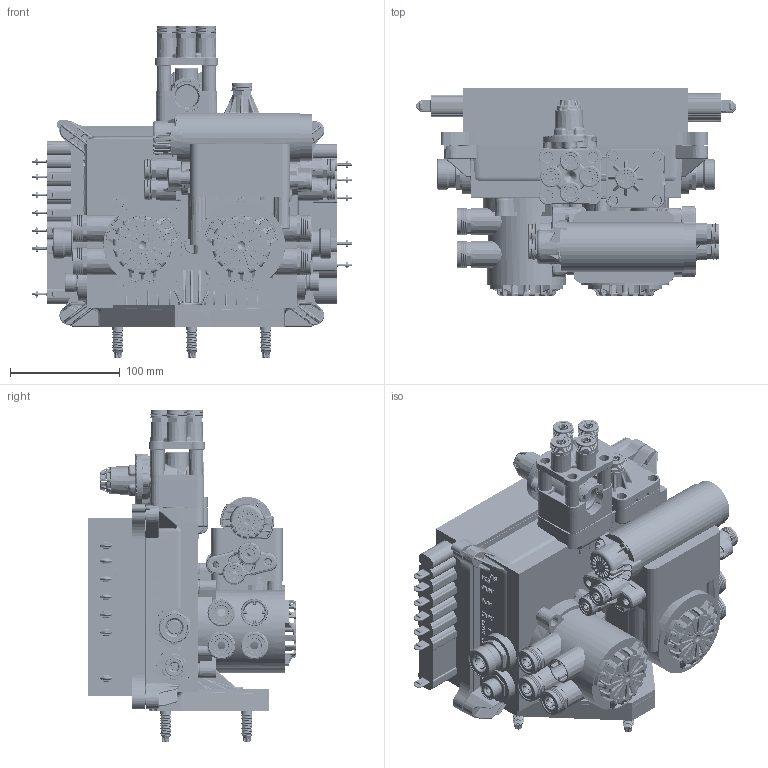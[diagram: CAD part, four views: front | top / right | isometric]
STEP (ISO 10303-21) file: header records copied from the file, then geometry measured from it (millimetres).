
FILE_DESCRIPTION((''),'2;1');
FILE_NAME('842_001_121_ASM','2022-05-23T11:33:28',('sripaskaraa'),('Haldex Brake Products'),'CREO PARAMETRIC BY PTC INC, 2018500','CREO PARAMETRIC BY PTC INC, 2018500','');
FILE_SCHEMA(('AUTOMOTIVE_DESIGN { 1 0 10303 214 1 1 1 1 }'));
Products named in the file (54): 027_5561_09_SIMP_1_1; 003_9858_09_SIMP_ASM_1_ASM_1_ASM; 051_5150_09_1_1; 032_5119_09_1_1; 032_5113_09_1_1; 003_9960_09_SIMP_2_1; 003_9960_09_SIMP_ASM_2_ASM_1_ASM; 004_0012_09_SIMP_ASM_1_ASM_1_ASM; 027_5537_09_SIMP_AF7_1_1; 003_9864_09_SIMP_AF7_ASM_1_ASM__ASM; 032_5151_09_1_1; 003_9980_09_SIMP_AF6_ASM_1_ASM__ASM; 027_5556_09_AF17_1_1; 003_9836_09_AF18_ASM_1_ASM_1_ASM; 003_9861_09_SIMP_AF5_ASM_1_ASM__ASM; 027_5560_09_SIMP_1_1; 003_9841_09_SIMP_ASM_1_ASM_1_ASM; 032_5150_09_1_1_1; 032_5150_09_1_2_1; 032_5150_09_1_ASM_1_ASM; 003_9983_09_SIMP_ASM_1_ASM_1_ASM; 027_5556_09_1_1; 003_9836_09_ASM_1_ASM_1_ASM; 003_9863_09_SIMP_ASM_1_ASM_1_ASM; 027_5545_19_SIMP_1_1; 058_5007_09_AF8_1_1; 058_5007_09_AF9_1_1; 058_5007_09_AF10_1_1; 058_5007_09_AF11_1_1; 003_9853_19_SIMP_ASM_1_ASM_1_ASM; 027_5551_19_1_1; 029_5015_09_ASM_1_1; 003_9913_19_SIMP_ASM_1_ASM_1_ASM; 027_5552_19_1_1; 003_9855_19_ASM_1_ASM_1_ASM; 027_5555_09_1_1; 003_9912_09_ASM_1_ASM_1_ASM; 003_9851_09_SIMP_ASM_1_ASM_1_ASM; 027_5610_09_1_1; 003_9989_09_ASM_1_ASM_1_ASM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
Assembly tree (79 placements, depth 7):
  842_001_121_ASM
    842_001_121_SIMP_ASM_ASM_1_ASM
      842_001_121_SIMP_ASM_1_ASM_1_ASM
        004_0012_09_SIMP_ASM_1_ASM_1_ASM
          003_9858_09_SIMP_ASM_1_ASM_1_ASM
            027_5561_09_SIMP_1_1
          051_5150_09_1_1  x3
          032_5119_09_1_1  x2
          032_5113_09_1_1  x2
          003_9960_09_SIMP_ASM_2_ASM_1_ASM
            003_9960_09_SIMP_2_1
        003_9861_09_SIMP_AF5_ASM_1_ASM__ASM
          003_9980_09_SIMP_AF6_ASM_1_ASM__ASM
            003_9864_09_SIMP_AF7_ASM_1_ASM__ASM
              027_5537_09_SIMP_AF7_1_1
            032_5151_09_1_1  x3
          003_9836_09_AF18_ASM_1_ASM_1_ASM
            027_5556_09_AF17_1_1
        003_9863_09_SIMP_ASM_1_ASM_1_ASM
          003_9983_09_SIMP_ASM_1_ASM_1_ASM
            003_9841_09_SIMP_ASM_1_ASM_1_ASM
              027_5560_09_SIMP_1_1
            032_5151_09_1_1  x3
            032_5150_09_1_ASM_1_ASM
              032_5150_09_1_1_1
              032_5150_09_1_2_1
          003_9836_09_ASM_1_ASM_1_ASM
            027_5556_09_1_1
        003_9851_09_SIMP_ASM_1_ASM_1_ASM
          003_9913_19_SIMP_ASM_1_ASM_1_ASM
            003_9853_19_SIMP_ASM_1_ASM_1_ASM
              027_5545_19_SIMP_1_1
              058_5007_09_AF8_1_1
              058_5007_09_AF9_1_1
              058_5007_09_AF10_1_1
              058_5007_09_AF11_1_1
            027_5551_19_1_1
            029_5015_09_ASM_1_1
          003_9855_19_ASM_1_ASM_1_ASM  x2
            027_5552_19_1_1
            032_5150_09_1_ASM_1_ASM
              032_5150_09_1_1_1
              032_5150_09_1_2_1
          003_9912_09_ASM_1_ASM_1_ASM
            027_5555_09_1_1
        003_9917_09_ASM_1_ASM_1_ASM
          003_9989_09_ASM_1_ASM_1_ASM
            027_5610_09_1_1
          032_5150_09_1_ASM_1_ASM
            032_5150_09_1_1_1
            032_5150_09_1_2_1
        003_9898_09_ASM_1_ASM_1_ASM
          2330527_1_1
        003_9899_09_ASM_1_ASM_1_ASM  x9
          2330529_1_1
        003_9900_09_ASM_1_ASM_1_ASM  x2
          2330530_1_1
        H133231_ASM_1_ASM_1_ASM
          H150097_ASM_1_ASM_1_ASM
            H140859_1_1
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Bounding box: 292.54 x 189.98 x 302.7 mm (x, y, z)
Volume: 5449299.5 mm3; surface area: 760115.6 mm2
Topology: 62 solids, 122 shells, 42575 faces, 117449 edges, 75632 vertices
Faces by surface type: plane 26564, cylinder 6694, torus 3434, bspline 3174, cone 1984, sphere 563, extrusion 162
Entity records: 942013 total; most frequent: CARTESIAN_POINT 319568, ORIENTED_EDGE 104870, DIRECTION 90070, EDGE_CURVE 52991, PRESENTATION_STYLE_ASSIGNMENT 37462, STYLED_ITEM 37191, VERTEX_POINT 33969, CURVE_STYLE 30271
